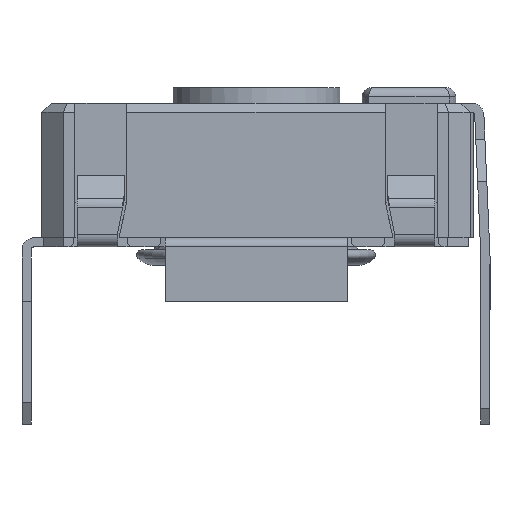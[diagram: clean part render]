
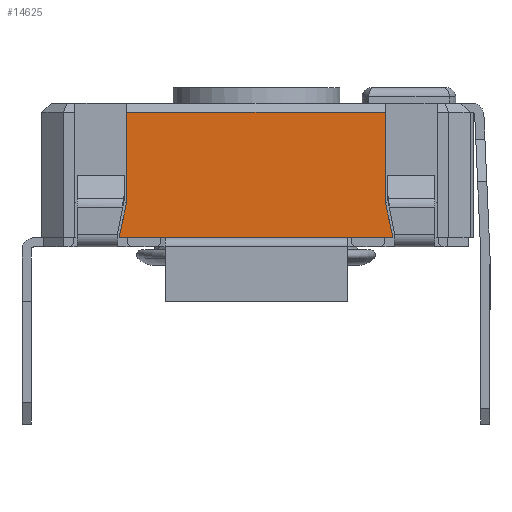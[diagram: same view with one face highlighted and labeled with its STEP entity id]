
A CAD part, left-side view. The second image highlights one B-rep face of the part: STEP entity #14625.
In plain terms, the highlighted planar face has unit normal (-1, 0, 0).
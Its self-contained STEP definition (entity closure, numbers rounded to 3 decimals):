
#1319=FACE_OUTER_BOUND('',#2074,.T.);
#2074=EDGE_LOOP('',(#12414,#12415,#12416,#12417,#12418,#12419));
#2989=LINE('',#22102,#4583);
#3288=LINE('',#23048,#4882);
#3292=LINE('',#23055,#4886);
#3649=LINE('',#23820,#5243);
#3654=LINE('',#23828,#5248);
#3655=LINE('',#23830,#5249);
#4583=VECTOR('',#17812,10.);
#4882=VECTOR('',#18541,10.);
#4886=VECTOR('',#18547,10.);
#5243=VECTOR('',#19292,10.);
#5248=VECTOR('',#19299,10.);
#5249=VECTOR('',#19302,10.);
#6097=VERTEX_POINT('',#22099);
#6098=VERTEX_POINT('',#22101);
#6389=VERTEX_POINT('',#23045);
#6390=VERTEX_POINT('',#23047);
#6392=VERTEX_POINT('',#23053);
#6592=VERTEX_POINT('',#23826);
#7758=EDGE_CURVE('',#6097,#6098,#2989,.T.);
#8168=EDGE_CURVE('',#6389,#6390,#3288,.T.);
#8172=EDGE_CURVE('',#6389,#6392,#3292,.T.);
#8553=EDGE_CURVE('',#6098,#6392,#3649,.T.);
#8558=EDGE_CURVE('',#6592,#6097,#3654,.T.);
#8559=EDGE_CURVE('',#6592,#6390,#3655,.T.);
#12414=ORIENTED_EDGE('',*,*,#8168,.F.);
#12415=ORIENTED_EDGE('',*,*,#8172,.T.);
#12416=ORIENTED_EDGE('',*,*,#8553,.F.);
#12417=ORIENTED_EDGE('',*,*,#7758,.F.);
#12418=ORIENTED_EDGE('',*,*,#8558,.F.);
#12419=ORIENTED_EDGE('',*,*,#8559,.T.);
#13199=PLANE('',#15714);
#14625=ADVANCED_FACE('',(#1319),#13199,.T.);
#15714=AXIS2_PLACEMENT_3D('',#23864,#19348,#19349);
#17812=DIRECTION('',(0.,1.,0.));
#18541=DIRECTION('',(0.,-1.,0.));
#18547=DIRECTION('',(0.,0.,-1.));
#19292=DIRECTION('',(0.,-0.208,0.978));
#19299=DIRECTION('',(0.,-0.208,-0.978));
#19302=DIRECTION('',(0.,0.,1.));
#19348=DIRECTION('center_axis',(-1.,0.,0.));
#19349=DIRECTION('ref_axis',(0.,0.,1.));
#22099=CARTESIAN_POINT('',(-7.,-4.425,-2.225));
#22101=CARTESIAN_POINT('',(-7.,4.525,-2.225));
#22102=CARTESIAN_POINT('',(-7.,-6.25,-2.225));
#23045=CARTESIAN_POINT('',(-7.,4.275,1.875));
#23047=CARTESIAN_POINT('',(-7.,-4.175,1.875));
#23048=CARTESIAN_POINT('',(-7.,-3.1,1.875));
#23053=CARTESIAN_POINT('',(-7.,4.275,-1.049));
#23055=CARTESIAN_POINT('',(-7.,4.275,-2.225));
#23820=CARTESIAN_POINT('',(-7.,4.525,-2.225));
#23826=CARTESIAN_POINT('',(-7.,-4.175,-1.049));
#23828=CARTESIAN_POINT('',(-7.,-4.175,-1.049));
#23830=CARTESIAN_POINT('',(-7.,-4.175,-2.225));
#23864=CARTESIAN_POINT('Origin',(-7.,-6.25,-2.225));
